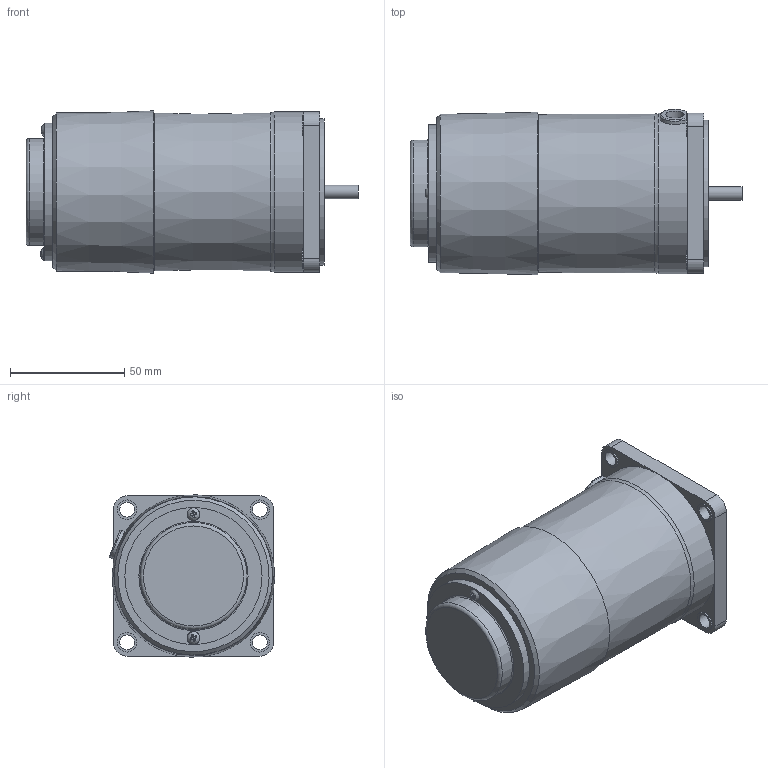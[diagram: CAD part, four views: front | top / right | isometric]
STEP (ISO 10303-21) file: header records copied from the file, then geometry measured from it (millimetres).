
FILE_DESCRIPTION(/* description */ (''),/* implementation_level */ '2;1');
FILE_NAME(/* name */ 'Y:\제품연구개발\3. 도면\3. 고객배포용\3D_홈페이지용\01-1 Standard AC SG Series\05-3 SPEED CONTROL ELECTROMAGNETIC BRAKE MOTOR(ES)\SG7R15_-ES12\SG7R15G-ES.stp',/* time_stamp */ '2023-12-04T09:52:19+09:00',/* author */ ('shyi1037'),/* organization */ (''),/* preprocessor_version */ 'ST-DEVELOPER v18.1',/* originating_system */ 'Autodesk Inventor 2022',/* authorisation */ '');
FILE_SCHEMA (('AUTOMOTIVE_DESIGN { 1 0 10303 214 3 1 1 }'));
Length unit declared in the file: millimetre
Products named in the file (1): SG7R15G-ES
Bounding box: 145 x 72.18 x 70.9 mm (x, y, z)
Volume: 470574 mm3; surface area: 41999.4 mm2
Topology: 1 solids, 7 shells, 156 faces, 360 edges, 234 vertices
Faces by surface type: plane 96, cylinder 46, torus 8, cone 4, bspline 2
Full cylindrical faces by diameter (mm): 3 x2, 3.5 x2, 5 x1, 5.6 x2, 5.96 x1, 6.5 x6, 8 x1, 8.5 x4, 10 x1, 28 x1, 44.7 x1, 46.7 x1, 47.7 x1, 59.9 x1, 64 x1, 68 x1, 70 x1
Entity records: 4792 total; most frequent: CARTESIAN_POINT 1082, DIRECTION 771, ORIENTED_EDGE 720, EDGE_CURVE 360, AXIS2_PLACEMENT_3D 294, VERTEX_POINT 234, EDGE_LOOP 188, LINE 183
